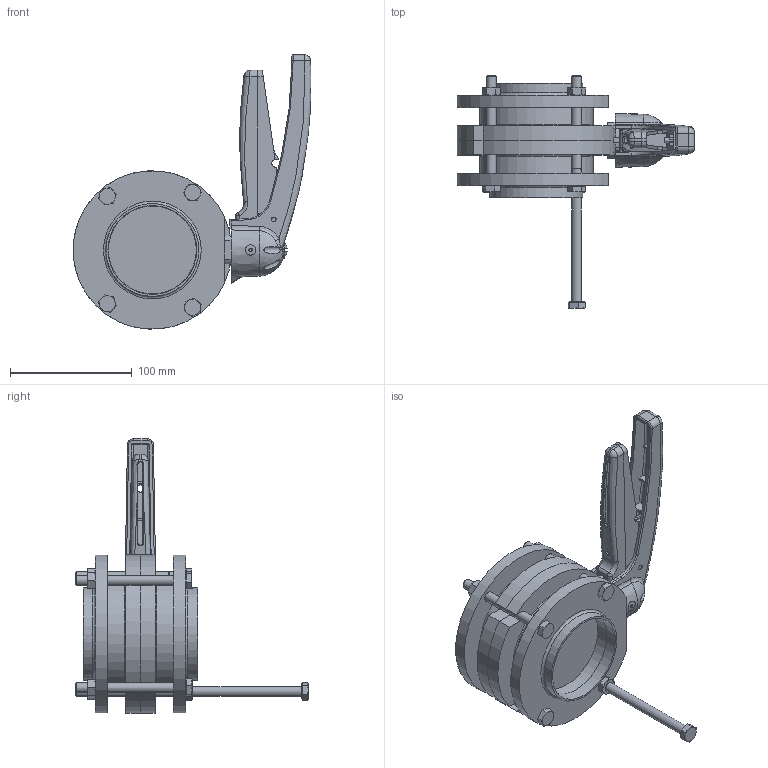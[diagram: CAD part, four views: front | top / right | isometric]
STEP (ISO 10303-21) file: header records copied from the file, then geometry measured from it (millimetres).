
FILE_DESCRIPTION(/* description */ ('VVF VALV.FARF.DN76.2X1.65 WAF4 316 VIT LEVA 5POS.'),/* implementation_level */ '2;1');
FILE_NAME(/* name */ 'C:\_DED_PWS\ZIGN-L\DB\B\EBA\BEBAD9300BVAA-00^SAGOMA.step',/* time_stamp */ '2022-06-06T12:12:12+02:00',/* author */ ('malp-m'),/* organization */ (''),/* preprocessor_version */ 'ST-DEVELOPER v18.1',/* originating_system */ 'Autodesk Inventor 2022',/* authorisation */ '');
FILE_SCHEMA (('CONFIG_CONTROL_DESIGN'));
Length unit declared in the file: millimetre
Products named in the file (7): BEBAD9300BVAA; Maniglia-5-posizioni-nuova-versione finale 01-2008- 25 - - 65; MEZZO-COR-DN076.1-WAFER-4; TPM022300BBA; UNI 5588 - M8; RBAAA08X90; UNI 5738 - M8 x 1 x 90
Assembly tree (14 placements, depth 2):
  BEBAD9300BVAA
    Maniglia-5-posizioni-nuova-versione finale 01-2008- 25 - - 65
    TPM022300BBA  x2
    MEZZO-COR-DN076.1-WAFER-4  x2
    UNI 5588 - M8  x4
    UNI 5738 - M8 x 1 x 90  x4
    RBAAA08X90
Bounding box: 194.99 x 190.6 x 224.92 mm (x, y, z)
Volume: 820330.1 mm3; surface area: 201879.4 mm2
Topology: 14 solids, 15 shells, 659 faces, 1606 edges, 1002 vertices
Faces by surface type: plane 294, cylinder 131, cone 122, bspline 81, sphere 18, torus 13
Full cylindrical faces by diameter (mm): 4 x3, 6 x2, 6.2 x4, 6.5 x1, 6.647 x4, 8 x6, 8.5 x12, 12.2 x4, 13 x2, 14.5 x1, 72.9 x2, 76.2 x2, 93 x2
Entity records: 24587 total; most frequent: CARTESIAN_POINT 12437, ORIENTED_EDGE 2534, DIRECTION 2223, EDGE_CURVE 1267, AXIS2_PLACEMENT_3D 812, VERTEX_POINT 797, LINE 599, VECTOR 599
